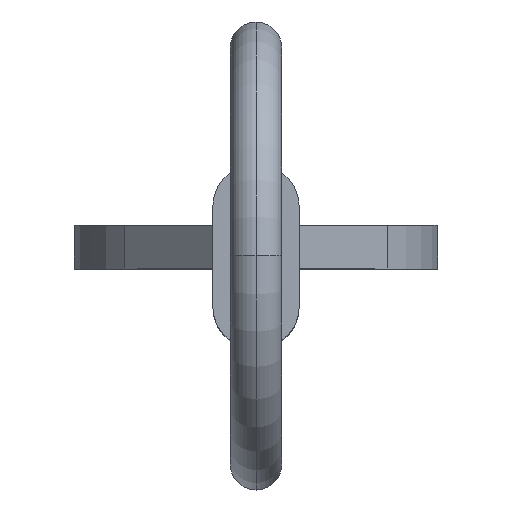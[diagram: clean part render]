
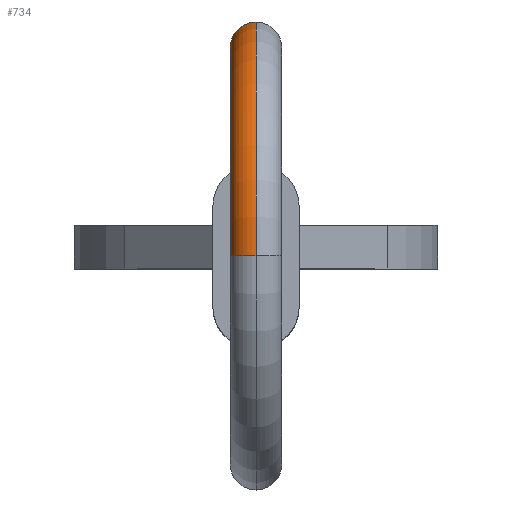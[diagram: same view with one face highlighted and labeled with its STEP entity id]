
A CAD part, top view. The second image highlights one B-rep face of the part: STEP entity #734.
In plain terms, the highlighted toroidal (fillet/blend) face has major radius 4.8 mm and minor radius 0.595 mm.
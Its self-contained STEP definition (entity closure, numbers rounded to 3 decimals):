
#14 = CARTESIAN_POINT ( 'NONE',  ( 0., 2.001, 236.197 ) ) ;
#15 = VERTEX_POINT ( 'NONE', #383 ) ;
#42 = CARTESIAN_POINT ( 'NONE',  ( 0., -1.133, 243.205 ) ) ;
#64 = CIRCLE ( 'NONE', #594, 4.205 ) ;
#70 = CARTESIAN_POINT ( 'NONE',  ( 0., -1.133, 239. ) ) ;
#99 = EDGE_CURVE ( 'NONE', #15, #912, #731, .T. ) ;
#109 = CARTESIAN_POINT ( 'NONE',  ( 0., 2.445, 235.8 ) ) ;
#143 = CARTESIAN_POINT ( 'NONE',  ( 0., -1.133, 239. ) ) ;
#206 = FACE_OUTER_BOUND ( 'NONE', #677, .T. ) ;
#242 = ORIENTED_EDGE ( 'NONE', *, *, #845, .F. ) ;
#257 = CARTESIAN_POINT ( 'NONE',  ( 0., 2.888, 235.403 ) ) ;
#298 = AXIS2_PLACEMENT_3D ( 'NONE', #70, #785, #712 ) ;
#343 = AXIS2_PLACEMENT_3D ( 'NONE', #109, #769, #623 ) ;
#345 = DIRECTION ( 'NONE',  ( 0., -1., 0. ) ) ;
#348 = CARTESIAN_POINT ( 'NONE',  ( 0., -1.133, 243.8 ) ) ;
#355 = CARTESIAN_POINT ( 'NONE',  ( 0., -1.133, 239. ) ) ;
#364 = ORIENTED_EDGE ( 'NONE', *, *, #695, .T. ) ;
#370 = CIRCLE ( 'NONE', #343, 0.595 ) ;
#383 = CARTESIAN_POINT ( 'NONE',  ( 0., -1.133, 244.395 ) ) ;
#397 = AXIS2_PLACEMENT_3D ( 'NONE', #348, #345, #796 ) ;
#418 = DIRECTION ( 'NONE',  ( 0., 0., 1. ) ) ;
#459 = ORIENTED_EDGE ( 'NONE', *, *, #99, .T. ) ;
#468 = ORIENTED_EDGE ( 'NONE', *, *, #833, .F. ) ;
#594 = AXIS2_PLACEMENT_3D ( 'NONE', #143, #658, #930 ) ;
#601 = VERTEX_POINT ( 'NONE', #14 ) ;
#623 = DIRECTION ( 'NONE',  ( 1., 0., 0. ) ) ;
#629 = CIRCLE ( 'NONE', #397, 0.595 ) ;
#634 = AXIS2_PLACEMENT_3D ( 'NONE', #355, #645, #418 ) ;
#645 = DIRECTION ( 'NONE',  ( -1., 0., 0. ) ) ;
#658 = DIRECTION ( 'NONE',  ( -1., 0., 0. ) ) ;
#677 = EDGE_LOOP ( 'NONE', ( #468, #459, #364, #242 ) ) ;
#695 = EDGE_CURVE ( 'NONE', #912, #601, #370, .T. ) ;
#712 = DIRECTION ( 'NONE',  ( 0., 0., 1. ) ) ;
#714 = TOROIDAL_SURFACE ( 'NONE', #298, 4.8, 0.595 ) ;
#731 = CIRCLE ( 'NONE', #634, 5.395 ) ;
#734 = ADVANCED_FACE ( 'NONE', ( #206 ), #714, .T. ) ;
#769 = DIRECTION ( 'NONE',  ( 0., 0.667, 0.745 ) ) ;
#785 = DIRECTION ( 'NONE',  ( -1., 0., 0. ) ) ;
#796 = DIRECTION ( 'NONE',  ( 0., 0., -1. ) ) ;
#833 = EDGE_CURVE ( 'NONE', #15, #907, #629, .T. ) ;
#845 = EDGE_CURVE ( 'NONE', #907, #601, #64, .T. ) ;
#907 = VERTEX_POINT ( 'NONE', #42 ) ;
#912 = VERTEX_POINT ( 'NONE', #257 ) ;
#930 = DIRECTION ( 'NONE',  ( 0., 0., 1. ) ) ;
